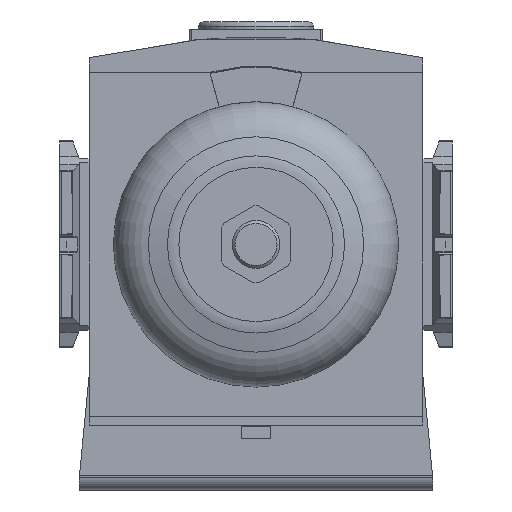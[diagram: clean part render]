
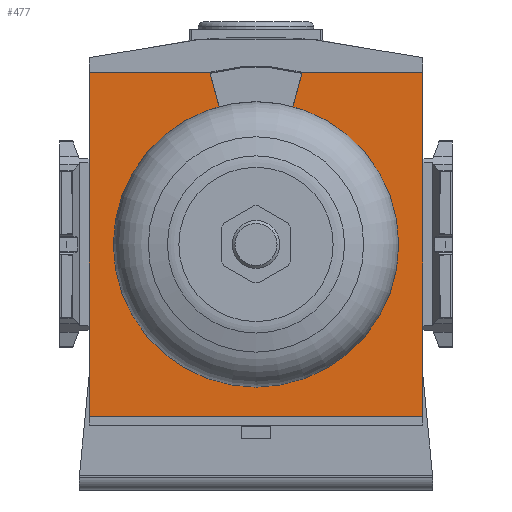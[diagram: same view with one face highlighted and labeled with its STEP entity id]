
A CAD part, front view. The second image highlights one B-rep face of the part: STEP entity #477.
In plain terms, the highlighted planar face has unit normal (0, -1, 0) as drawn and (0, 1, 0) by its records, which use the part's own axes.
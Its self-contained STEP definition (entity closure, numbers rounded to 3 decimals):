
#477 = ADVANCED_FACE( '', ( #1258, #1259 ), #1260, .T. );
#1258 = FACE_BOUND( '', #2380, .T. );
#1259 = FACE_OUTER_BOUND( '', #2381, .T. );
#1260 = PLANE( '', #2382 );
#2380 = EDGE_LOOP( '', ( #3734 ) );
#2381 = EDGE_LOOP( '', ( #3735, #3736, #3737, #3738 ) );
#2382 = AXIS2_PLACEMENT_3D( '', #3739, #3740, #3741 );
#3734 = ORIENTED_EDGE( '', *, *, #6875, .T. );
#3735 = ORIENTED_EDGE( '', *, *, #6876, .T. );
#3736 = ORIENTED_EDGE( '', *, *, #6749, .T. );
#3737 = ORIENTED_EDGE( '', *, *, #6877, .T. );
#3738 = ORIENTED_EDGE( '', *, *, #6878, .T. );
#3739 = CARTESIAN_POINT( '', ( 0., 35., 0. ) );
#3740 = DIRECTION( '', ( 0., 1., 0. ) );
#3741 = DIRECTION( '', ( 0., 0., 1. ) );
#6749 = EDGE_CURVE( '', #8124, #8122, #8125, .T. );
#6875 = EDGE_CURVE( '', #8352, #8352, #8353, .T. );
#6876 = EDGE_CURVE( '', #8354, #8124, #8355, .T. );
#6877 = EDGE_CURVE( '', #8122, #8356, #8357, .T. );
#6878 = EDGE_CURVE( '', #8356, #8354, #8358, .T. );
#8122 = VERTEX_POINT( '', #10102 );
#8124 = VERTEX_POINT( '', #10105 );
#8125 = LINE( '', #10106, #10107 );
#8352 = VERTEX_POINT( '', #10404 );
#8353 = CIRCLE( '', #10405, 29.047 );
#8354 = VERTEX_POINT( '', #10406 );
#8355 = LINE( '', #10407, #10408 );
#8356 = VERTEX_POINT( '', #10409 );
#8357 = LINE( '', #10410, #10411 );
#8358 = LINE( '', #10412, #10413 );
#10102 = CARTESIAN_POINT( '', ( 33.995, 34.995, 35. ) );
#10105 = CARTESIAN_POINT( '', ( -34., 35., 35. ) );
#10106 = CARTESIAN_POINT( '', ( -34., 35., 35. ) );
#10107 = VECTOR( '', #12576, 1000. );
#10404 = CARTESIAN_POINT( '', ( 0., 35., -29.047 ) );
#10405 = AXIS2_PLACEMENT_3D( '', #12758, #12759, #12760 );
#10406 = CARTESIAN_POINT( '', ( -34., 35., -35. ) );
#10407 = CARTESIAN_POINT( '', ( -34., 35., -35. ) );
#10408 = VECTOR( '', #12761, 1000. );
#10409 = CARTESIAN_POINT( '', ( 34., 35., -35. ) );
#10410 = CARTESIAN_POINT( '', ( 34., 35., 35. ) );
#10411 = VECTOR( '', #12762, 1000. );
#10412 = CARTESIAN_POINT( '', ( 34., 35., -35. ) );
#10413 = VECTOR( '', #12763, 1000. );
#12576 = DIRECTION( '', ( 1., 0., 0. ) );
#12758 = CARTESIAN_POINT( '', ( 0., 35., 0. ) );
#12759 = DIRECTION( '', ( 0., -1., 0. ) );
#12760 = DIRECTION( '', ( 0., 0., -1. ) );
#12761 = DIRECTION( '', ( 0., 0., 1. ) );
#12762 = DIRECTION( '', ( 0., 0., -1. ) );
#12763 = DIRECTION( '', ( -1., 0., 0. ) );
